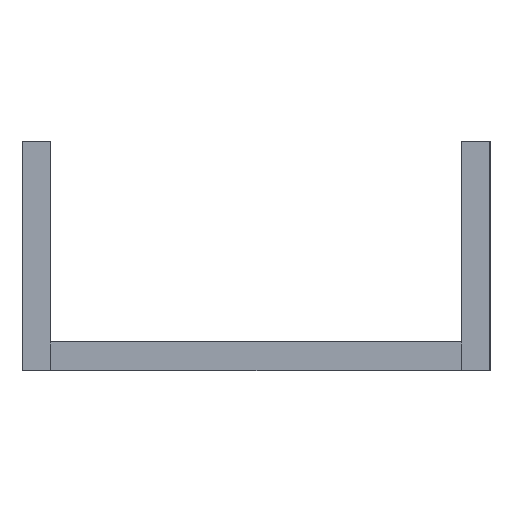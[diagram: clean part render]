
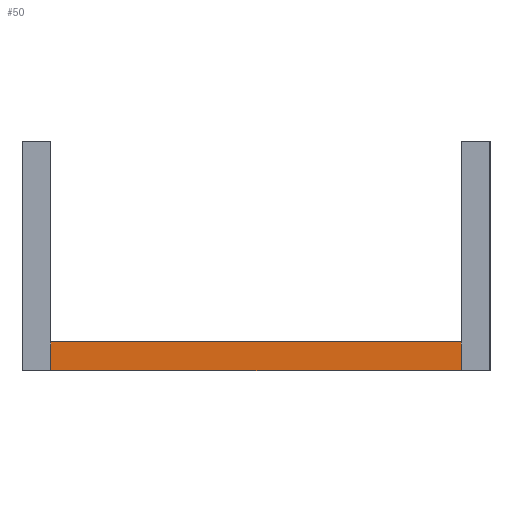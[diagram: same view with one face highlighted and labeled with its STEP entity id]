
A CAD part, left-side view. The second image highlights one B-rep face of the part: STEP entity #50.
In plain terms, the highlighted planar face has unit normal (-1, 0, 0).
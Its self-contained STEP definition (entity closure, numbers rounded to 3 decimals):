
#50 = ADVANCED_FACE( '', ( #107 ), #108, .F. );
#107 = FACE_OUTER_BOUND( '', #168, .T. );
#108 = PLANE( '', #169 );
#168 = EDGE_LOOP( '', ( #243, #244, #245, #246 ) );
#169 = AXIS2_PLACEMENT_3D( '', #247, #248, #249 );
#243 = ORIENTED_EDGE( '', *, *, #390, .T. );
#244 = ORIENTED_EDGE( '', *, *, #378, .F. );
#245 = ORIENTED_EDGE( '', *, *, #391, .F. );
#246 = ORIENTED_EDGE( '', *, *, #392, .T. );
#247 = CARTESIAN_POINT( '', ( 0., 10.75, 1.5 ) );
#248 = DIRECTION( '', ( 1., 0., 0. ) );
#249 = DIRECTION( '', ( 0., 0., -1. ) );
#378 = EDGE_CURVE( '', #444, #446, #447, .T. );
#390 = EDGE_CURVE( '', #465, #446, #466, .T. );
#391 = EDGE_CURVE( '', #467, #444, #468, .T. );
#392 = EDGE_CURVE( '', #467, #465, #469, .T. );
#444 = VERTEX_POINT( '', #539 );
#446 = VERTEX_POINT( '', #542 );
#447 = LINE( '', #543, #544 );
#465 = VERTEX_POINT( '', #570 );
#466 = LINE( '', #571, #572 );
#467 = VERTEX_POINT( '', #573 );
#468 = LINE( '', #574, #575 );
#469 = LINE( '', #576, #577 );
#539 = CARTESIAN_POINT( '', ( 0., -10.75, 1.5 ) );
#542 = CARTESIAN_POINT( '', ( 0., -10.75, 0. ) );
#543 = CARTESIAN_POINT( '', ( 0., -10.75, 1.5 ) );
#544 = VECTOR( '', #662, 1000. );
#570 = CARTESIAN_POINT( '', ( 0., 10.75, 0. ) );
#571 = CARTESIAN_POINT( '', ( 0., 10.75, 0. ) );
#572 = VECTOR( '', #671, 1000. );
#573 = CARTESIAN_POINT( '', ( 0., 10.75, 1.5 ) );
#574 = CARTESIAN_POINT( '', ( 0., 10.75, 1.5 ) );
#575 = VECTOR( '', #672, 1000. );
#576 = CARTESIAN_POINT( '', ( 0., 10.75, 1.5 ) );
#577 = VECTOR( '', #673, 1000. );
#662 = DIRECTION( '', ( 0., 0., -1. ) );
#671 = DIRECTION( '', ( 0., -1., 0. ) );
#672 = DIRECTION( '', ( 0., -1., 0. ) );
#673 = DIRECTION( '', ( 0., 0., -1. ) );
